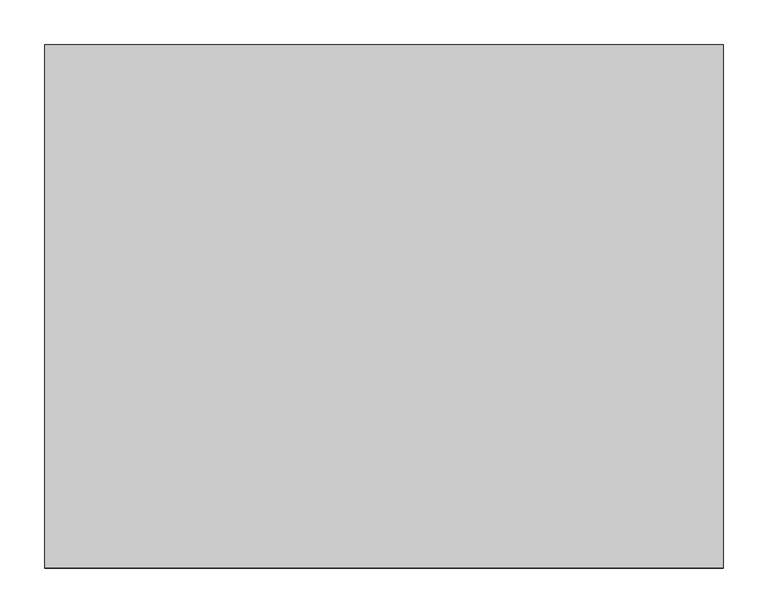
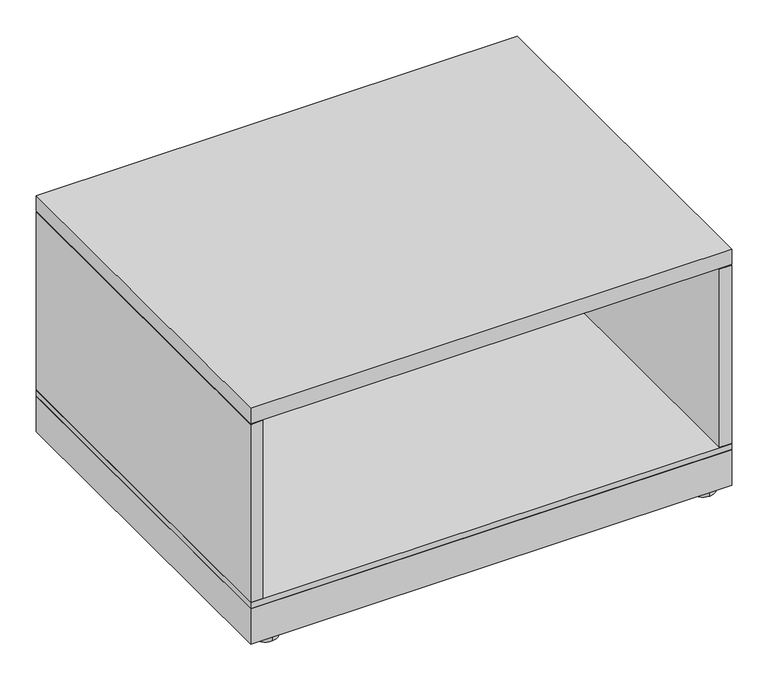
"""IFC4 building model written with IfcOpenShell, lengths in millimetres: furniture geometry, Steelcase - Universal Storage - Lateral File - 1 High - Flush Steel : Open - 23 1/8D x 30W."""

from ifc_helpers import new_model, si_unit, point, frame, frame_2d, origin, origin_with_axes, place, context, project, spatial, polyline, circle_curve, trimmed, segment, composite_curve, outline, extrude, source, transform, mapped, element, save


def furniture_e0809e81(model_context):
    return source(origin(), model_context, "Body", "SweptSolid", [
        extrude(outline(polyline([(762.0, 587.502), (762.0, 0.0), (0.0, 0.0), (0.0, 587.502), (762.0, 587.502)])), frame((0.0, 0.0, 6.3500002), z_axis=(0.0, 0.0, 1.0), x_axis=(1.0, 0.0, 0.0)), (0.0, 0.0, 1.0), 59.6899998),
        extrude(outline(composite_curve([segment(trimmed(circle_curve(frame_2d((727.3290058, 565.1653666)), 20.32), [point((727.3290058, 544.8453666))], [point((727.3290058, 585.4853666))], False, "CARTESIAN"), True, "CONTINUOUS"), segment(trimmed(circle_curve(frame_2d((727.3290058, 565.1653666)), 20.32), [point((727.3290058, 585.4853666))], [point((727.3290058, 544.8453666))], False, "CARTESIAN"), True, "CONTINUOUS")], self_intersect=False)), origin_with_axes(), (0.0, 0.0, 1.0), 6.3500002),
        extrude(outline(composite_curve([segment(trimmed(circle_curve(frame_2d((727.3290058, 20.7491455)), 20.32), [point((727.3290058, 0.4291455))], [point((727.3290058, 41.0691455))], False, "CARTESIAN"), True, "CONTINUOUS"), segment(trimmed(circle_curve(frame_2d((727.3290058, 20.7491455)), 20.32), [point((727.3290058, 41.0691455))], [point((727.3290058, 0.4291455))], False, "CARTESIAN"), True, "CONTINUOUS")], self_intersect=False)), origin_with_axes(), (0.0, 0.0, 1.0), 6.3500002),
        extrude(outline(composite_curve([segment(trimmed(circle_curve(frame_2d((34.29, 565.1653666)), 20.32), [point((34.29, 585.4853666))], [point((34.29, 544.8453666))], False, "CARTESIAN"), True, "CONTINUOUS"), segment(trimmed(circle_curve(frame_2d((34.29, 565.1653666)), 20.32), [point((34.29, 544.8453666))], [point((34.29, 585.4853666))], False, "CARTESIAN"), True, "CONTINUOUS")], self_intersect=False)), origin_with_axes(), (0.0, 0.0, 1.0), 6.3500002),
        extrude(outline(composite_curve([segment(trimmed(circle_curve(frame_2d((34.29, 20.7491455)), 20.32), [point((34.29, 41.0691455))], [point((34.29, 0.4291455))], False, "CARTESIAN"), True, "CONTINUOUS"), segment(trimmed(circle_curve(frame_2d((34.29, 20.7491455)), 20.32), [point((34.29, 0.4291455))], [point((34.29, 41.0691455))], False, "CARTESIAN"), True, "CONTINUOUS")], self_intersect=False)), origin_with_axes(), (0.0, 0.0, 1.0), 6.3500002),
        extrude(outline(polyline([(762.0, 0.0), (0.0, 0.0), (0.0, 587.502), (762.0, 587.502), (762.0, 0.0)])), frame((0.0, 0.0, 376.3010136), z_axis=(0.0, 0.0, 1.0), x_axis=(1.0, 0.0, 0.0)), (0.0, 0.0, 1.0), 25.3999758),
        extrude(outline(polyline([(762.0, 0.0), (0.0, 0.0), (0.0, 587.502), (762.0, 587.502), (762.0, 0.0)])), frame((0.0, 0.0, 66.04), z_axis=(0.0, 0.0, 1.0), x_axis=(1.0, 0.0, 0.0)), (0.0, 0.0, 1.0), 10.16),
        extrude(outline(polyline([(0.0, 587.502), (762.0, 587.502), (762.0, 0.0), (742.4419641, 0.0), (742.4419641, 586.74), (19.558, 586.74), (19.558, 0.0), (0.0, 0.0), (0.0, 587.502)])), frame((0.0, 0.0, 76.2), z_axis=(0.0, 0.0, 1.0), x_axis=(1.0, 0.0, 0.0)), (0.0, 0.0, 1.0), 298.577),
    ])


if __name__ == "__main__":
    model = new_model("IFC4")
    model_context = context("Model", 3, world=origin())
    ifc_project = project(units=[si_unit("LENGTHUNIT", "METRE", prefix="MILLI")], contexts=[model_context])
    site = spatial("IfcSite", under=ifc_project)
    building = spatial("IfcBuilding", under=site)
    placement = place(None, origin())
    furniture_shape = furniture_e0809e81(model_context)
    element("IfcFurniture", 1, ObjectType="Steelcase - Universal Storage - Lateral File - 1 High - Flush Steel : Open - 23 1/8D x 30W", at=placement, inside=building, context=model_context, shape_type="MappedRepresentation", body=[
        mapped(furniture_shape, transform((0.0, 0.0, 0.0), x_axis=(1.0, 0.0, 0.0), y_axis=(0.0, 1.0, 0.0), z_axis=(0.0, 0.0, 1.0))),
    ])
    save(model, "model.ifc")
